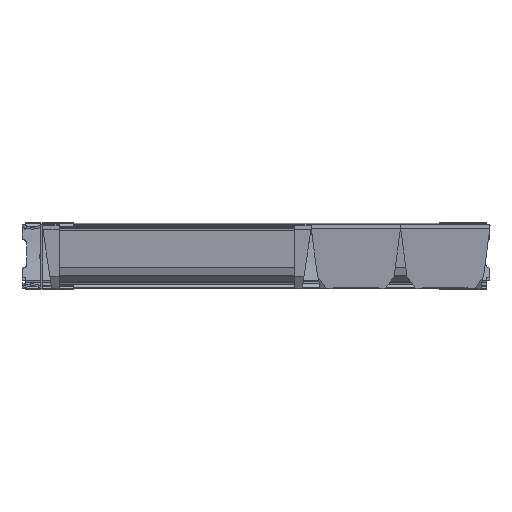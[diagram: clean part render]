
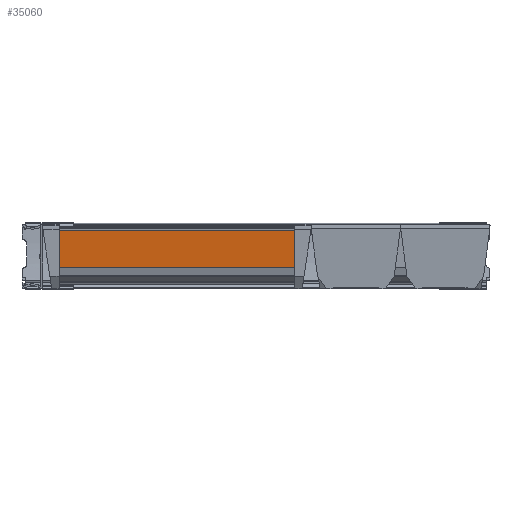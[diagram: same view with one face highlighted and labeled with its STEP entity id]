
A CAD part, left-side view. The second image highlights one B-rep face of the part: STEP entity #35060.
In plain terms, the highlighted planar face has unit normal (-0.991, 0, -0.131).
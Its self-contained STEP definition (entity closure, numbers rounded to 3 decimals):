
#7727 = CARTESIAN_POINT ( 'NONE',  ( 8.199, 197.5, 21.942 ) ) ;
#7745 = CARTESIAN_POINT ( 'NONE',  ( 8.199, 441.5, 21.942 ) ) ;
#7747 = DIRECTION ( 'NONE',  ( 0., -1., 0. ) ) ;
#7750 = DIRECTION ( 'NONE',  ( 0.131, 0., -0.991 ) ) ;
#7760 = CARTESIAN_POINT ( 'NONE',  ( 2.926, 441.5, 61.998 ) ) ;
#7762 = DIRECTION ( 'NONE',  ( 0., -1., 0. ) ) ;
#7770 = CARTESIAN_POINT ( 'NONE',  ( 8.199, 436., 21.942 ) ) ;
#7772 = DIRECTION ( 'NONE',  ( -0.131, 0., 0.991 ) ) ;
#12931 = CARTESIAN_POINT ( 'NONE',  ( 2.926, 197.5, 61.998 ) ) ;
#12939 = CARTESIAN_POINT ( 'NONE',  ( 8.199, 197.5, 21.942 ) ) ;
#13130 = CARTESIAN_POINT ( 'NONE',  ( 8.199, 436., 21.942 ) ) ;
#14456 = LINE ( 'NONE', #7760, #14457 ) ;
#14457 = VECTOR ( 'NONE', #7762, 1000. ) ;
#14458 = LINE ( 'NONE', #7727, #14462 ) ;
#14460 = LINE ( 'NONE', #7745, #14461 ) ;
#14461 = VECTOR ( 'NONE', #7747, 1000. ) ;
#14462 = VECTOR ( 'NONE', #7750, 1000. ) ;
#14463 = VECTOR ( 'NONE', #7772, 1000. ) ;
#14464 = LINE ( 'NONE', #7770, #14463 ) ;
#15878 = CARTESIAN_POINT ( 'NONE',  ( 8.199, 441.5, 21.942 ) ) ;
#15879 = PLANE ( 'NONE',  #30461 ) ;
#15888 = DIRECTION ( 'NONE',  ( 0.991, 0., 0.131 ) ) ;
#15889 = DIRECTION ( 'NONE',  ( 0.131, 0., -0.991 ) ) ;
#26329 = VERTEX_POINT ( 'NONE', #12931 ) ;
#26340 = VERTEX_POINT ( 'NONE', #12939 ) ;
#26644 = VERTEX_POINT ( 'NONE', #13130 ) ;
#27206 = VERTEX_POINT ( 'NONE', #48654 ) ;
#30461 = AXIS2_PLACEMENT_3D ( 'NONE', #15878, #15888, #15889 ) ;
#32522 = ORIENTED_EDGE ( 'NONE', *, *, #44949, .F. ) ;
#32524 = ORIENTED_EDGE ( 'NONE', *, *, #44947, .F. ) ;
#32526 = ORIENTED_EDGE ( 'NONE', *, *, #44946, .T. ) ;
#32528 = ORIENTED_EDGE ( 'NONE', *, *, #44951, .F. ) ;
#35060 = ADVANCED_FACE ( 'NONE', ( #47471 ), #15879, .F. ) ;
#40397 = EDGE_LOOP ( 'NONE', ( #32528, #32526, #32524, #32522 ) ) ;
#44946 = EDGE_CURVE ( 'NONE', #26644, #26340, #14460, .T. ) ;
#44947 = EDGE_CURVE ( 'NONE', #26329, #26340, #14458, .T. ) ;
#44949 = EDGE_CURVE ( 'NONE', #27206, #26329, #14456, .T. ) ;
#44951 = EDGE_CURVE ( 'NONE', #26644, #27206, #14464, .T. ) ;
#47471 = FACE_OUTER_BOUND ( 'NONE', #40397, .T. ) ;
#48654 = CARTESIAN_POINT ( 'NONE',  ( 2.926, 436., 61.998 ) ) ;
